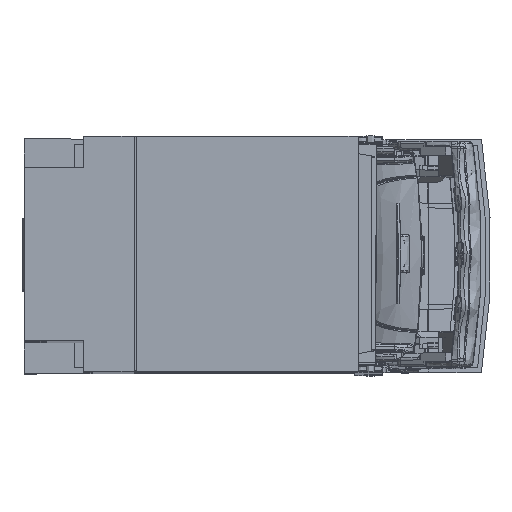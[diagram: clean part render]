
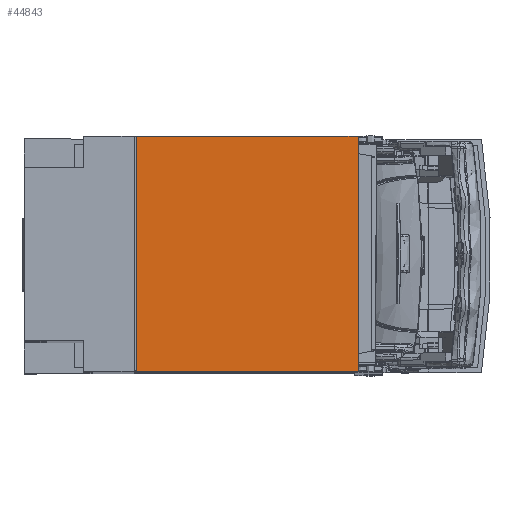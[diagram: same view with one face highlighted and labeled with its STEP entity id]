
A CAD part, top view. The second image highlights one B-rep face of the part: STEP entity #44843.
In plain terms, the highlighted planar face has unit normal (0, 0, 1).
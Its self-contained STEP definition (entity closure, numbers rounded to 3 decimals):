
#44843=ADVANCED_FACE('',(#55047),#52127,.F.);
#52127=PLANE('',#164128);
#55047=FACE_OUTER_BOUND('',#62364,.T.);
#62364=EDGE_LOOP('',(#77739,#77740,#77741,#77742));
#77739=ORIENTED_EDGE('',*,*,#128301,.T.);
#77740=ORIENTED_EDGE('',*,*,#127548,.F.);
#77741=ORIENTED_EDGE('',*,*,#127411,.F.);
#77742=ORIENTED_EDGE('',*,*,#127349,.F.);
#115116=VERTEX_POINT('',#199663);
#115117=VERTEX_POINT('',#199665);
#115171=VERTEX_POINT('',#199907);
#115304=VERTEX_POINT('',#200274);
#127349=EDGE_CURVE('',#115116,#115117,#146487,.T.);
#127411=EDGE_CURVE('',#115117,#115171,#146528,.T.);
#127548=EDGE_CURVE('',#115171,#115304,#146609,.T.);
#128301=EDGE_CURVE('',#115116,#115304,#147347,.T.);
#146487=LINE('',#199664,#155104);
#146528=LINE('',#199906,#155145);
#146609=LINE('',#200273,#155226);
#147347=LINE('',#201766,#155964);
#155104=VECTOR('',#172912,1.);
#155145=VECTOR('',#172989,1.);
#155226=VECTOR('',#173160,1.);
#155964=VECTOR('',#174048,1.);
#164128=AXIS2_PLACEMENT_3D('',#201767,#174049,#174050);
#172912=DIRECTION('',(1.,0.,0.));
#172989=DIRECTION('',(0.,-1.,0.));
#173160=DIRECTION('',(-1.,0.,0.));
#174048=DIRECTION('',(0.,-1.,0.));
#174049=DIRECTION('',(0.,0.,-1.));
#174050=DIRECTION('',(0.,1.,0.));
#199663=CARTESIAN_POINT('',(47.2,49.5,292.));
#199664=CARTESIAN_POINT('',(152.,49.5,292.));
#199665=CARTESIAN_POINT('',(140.5,49.5,292.));
#199906=CARTESIAN_POINT('',(140.5,49.5,292.));
#199907=CARTESIAN_POINT('',(140.5,-49.5,292.));
#200273=CARTESIAN_POINT('',(152.,-49.5,292.));
#200274=CARTESIAN_POINT('',(47.2,-49.5,292.));
#201766=CARTESIAN_POINT('',(47.2,49.3,292.));
#201767=CARTESIAN_POINT('',(152.,49.5,292.));
